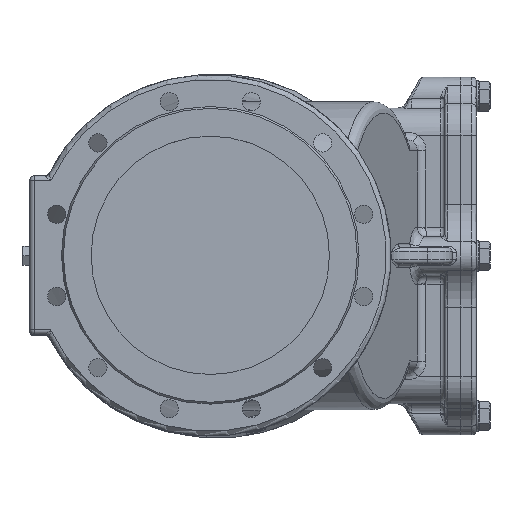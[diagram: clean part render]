
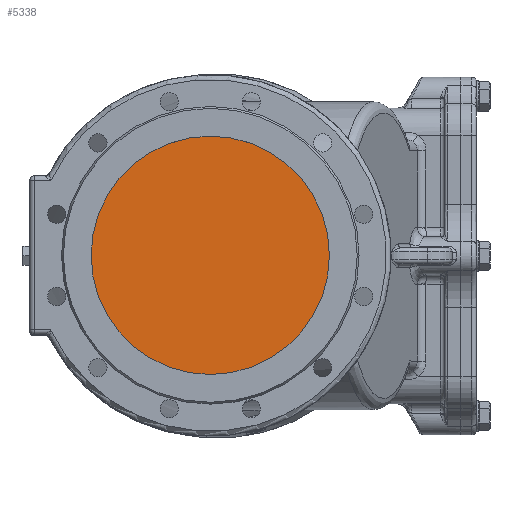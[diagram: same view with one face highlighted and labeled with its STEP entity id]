
A CAD part, top view. The second image highlights one B-rep face of the part: STEP entity #5338.
In plain terms, the highlighted planar face has unit normal (0, 0, 1).
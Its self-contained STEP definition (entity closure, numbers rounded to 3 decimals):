
#5338=ADVANCED_FACE('',(#14425),#14427,.F.);
#14425=FACE_BOUND('',#14426,.T.);
#14426=EDGE_LOOP('',(#18775));
#14427=PLANE('',#14428);
#14428=AXIS2_PLACEMENT_3D('',#14429,#14430,#14431);
#14429=CARTESIAN_POINT('',(0.,0.,690.));
#14430=DIRECTION('',(0.,0.,-1.));
#14431=DIRECTION('',(-1.,0.,0.));
#18775=ORIENTED_EDGE('',*,*,#21457,.F.);
#21457=EDGE_CURVE('',#24304,#24304,#24305,.T.);
#24304=VERTEX_POINT('',#57287);
#24305=CIRCLE('',#57288,150.);
#57287=CARTESIAN_POINT('',(-150.,0.,690.));
#57288=AXIS2_PLACEMENT_3D('',#57289,#57290,#57291);
#57289=CARTESIAN_POINT('',(0.,0.,690.));
#57290=DIRECTION('',(0.,0.,-1.));
#57291=DIRECTION('',(-1.,0.,0.));
